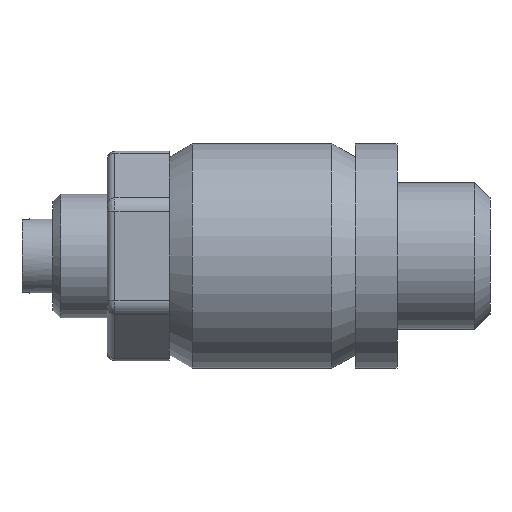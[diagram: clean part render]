
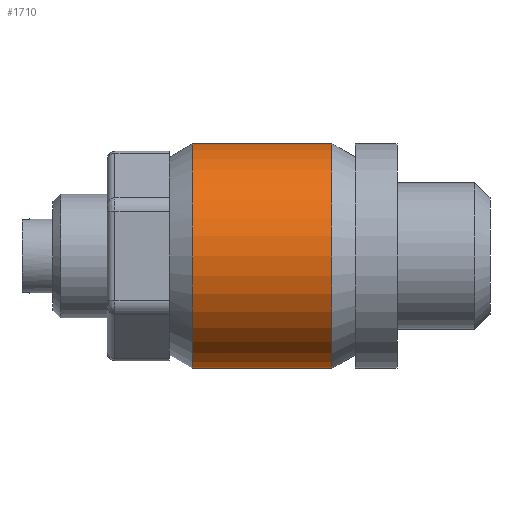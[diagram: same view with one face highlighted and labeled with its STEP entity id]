
A CAD part, left-side view. The second image highlights one B-rep face of the part: STEP entity #1710.
In plain terms, the highlighted cylindrical face has radius 7.25 mm (diameter 14.5 mm), a full revolution.
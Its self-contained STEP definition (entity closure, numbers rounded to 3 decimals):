
#1642=CARTESIAN_POINT('',(0.0,0.,0.0));
#1643=DIRECTION('',(0.0,-1.0,0.0));
#1644=DIRECTION('',(1.0,0.0,0.0));
#1645=AXIS2_PLACEMENT_3D('',#1642,#1643,#1644);
#1646=CYLINDRICAL_SURFACE('',#1645,7.25);
#1647=CARTESIAN_POINT('',(7.25,4.5,0.0));
#1648=VERTEX_POINT('',#1647);
#1649=CARTESIAN_POINT('',(0.0,4.5,0.0));
#1650=DIRECTION('',(0.0,-1.0,0.0));
#1651=DIRECTION('',(1.0,0.0,0.0));
#1652=AXIS2_PLACEMENT_3D('',#1649,#1650,#1651);
#1653=CIRCLE('',#1652,7.25);
#1654=EDGE_CURVE('',#1648,#1648,#1653,.T.);
#1655=ORIENTED_EDGE('',*,*,#1654,.T.);
#1656=EDGE_LOOP('',(#1655));
#1657=FACE_OUTER_BOUND('',#1656,.T.);
#1658=CARTESIAN_POINT('',(7.25,-4.5,0.0));
#1659=VERTEX_POINT('',#1658);
#1660=CARTESIAN_POINT('',(0.0,-4.5,0.0));
#1661=DIRECTION('',(0.0,-1.0,0.0));
#1662=DIRECTION('',(1.0,0.0,0.0));
#1663=AXIS2_PLACEMENT_3D('',#1660,#1661,#1662);
#1664=CIRCLE('',#1663,7.25);
#1665=EDGE_CURVE('',#1659,#1659,#1664,.T.);
#1666=ORIENTED_EDGE('',*,*,#1665,.F.);
#1667=EDGE_LOOP('',(#1666));
#1668=FACE_BOUND('',#1667,.T.);
#1669=CARTESIAN_POINT('',(6.205,0.,3.75));
#1670=VERTEX_POINT('',#1669);
#1671=CARTESIAN_POINT('',(6.205,0.,3.75));
#1672=CARTESIAN_POINT('',(6.205,-0.482,3.75));
#1673=CARTESIAN_POINT('',(6.267,-0.988,3.652));
#1674=CARTESIAN_POINT('',(6.476,-1.908,3.267));
#1675=CARTESIAN_POINT('',(6.619,-2.323,2.98));
#1676=CARTESIAN_POINT('',(6.876,-2.979,2.324));
#1677=CARTESIAN_POINT('',(7.01,-3.266,1.909));
#1678=CARTESIAN_POINT('',(7.198,-3.652,0.987));
#1679=CARTESIAN_POINT('',(7.25,-3.75,0.481));
#1680=CARTESIAN_POINT('',(7.25,-3.75,-0.481));
#1681=CARTESIAN_POINT('',(7.198,-3.652,-0.987));
#1682=CARTESIAN_POINT('',(7.01,-3.266,-1.909));
#1683=CARTESIAN_POINT('',(6.876,-2.979,-2.324));
#1684=CARTESIAN_POINT('',(6.619,-2.323,-2.98));
#1685=CARTESIAN_POINT('',(6.476,-1.908,-3.267));
#1686=CARTESIAN_POINT('',(6.267,-0.988,-3.652));
#1687=CARTESIAN_POINT('',(6.205,-0.482,-3.75));
#1688=CARTESIAN_POINT('',(6.205,0.482,-3.75));
#1689=CARTESIAN_POINT('',(6.267,0.988,-3.652));
#1690=CARTESIAN_POINT('',(6.476,1.908,-3.267));
#1691=CARTESIAN_POINT('',(6.619,2.323,-2.98));
#1692=CARTESIAN_POINT('',(6.876,2.979,-2.324));
#1693=CARTESIAN_POINT('',(7.01,3.266,-1.909));
#1694=CARTESIAN_POINT('',(7.198,3.652,-0.987));
#1695=CARTESIAN_POINT('',(7.25,3.75,-0.481));
#1696=CARTESIAN_POINT('',(7.25,3.75,0.481));
#1697=CARTESIAN_POINT('',(7.198,3.652,0.987));
#1698=CARTESIAN_POINT('',(7.01,3.266,1.909));
#1699=CARTESIAN_POINT('',(6.876,2.979,2.324));
#1700=CARTESIAN_POINT('',(6.619,2.323,2.98));
#1701=CARTESIAN_POINT('',(6.476,1.908,3.267));
#1702=CARTESIAN_POINT('',(6.267,0.988,3.652));
#1703=CARTESIAN_POINT('',(6.205,0.482,3.75));
#1704=CARTESIAN_POINT('',(6.205,0.,3.75));
#1705=B_SPLINE_CURVE_WITH_KNOTS('',3,(#1671,#1672,#1673,#1674,#1675,#1676,#1677,#1678,#1679,#1680,#1681,#1682,#1683,#1684,#1685,#1686,#1687,#1688,#1689,#1690,#1691,#1692,#1693,#1694,#1695,#1696,#1697,#1698,#1699,#1700,#1701,#1702,#1703,#1704),.UNSPECIFIED.,.T.,.U.,(4,2,2,2,2,2,2,2,2,2,2,2,2,2,2,2,4),(0.0,0.145,0.289,0.433,0.578,0.722,0.866,1.01,1.155,1.3,1.444,1.588,1.733,1.877,2.021,2.166,2.31),.UNSPECIFIED.);
#1706=EDGE_CURVE('',#1670,#1670,#1705,.T.);
#1707=ORIENTED_EDGE('',*,*,#1706,.F.);
#1708=EDGE_LOOP('',(#1707));
#1709=FACE_BOUND('',#1708,.T.);
#1710=ADVANCED_FACE('',(#1657,#1668,#1709),#1646,.T.);
